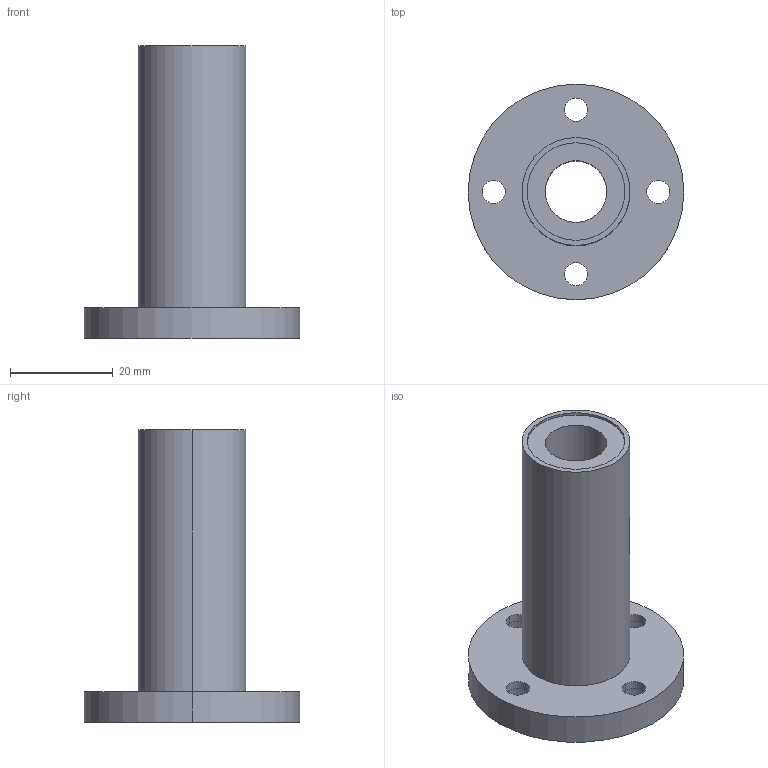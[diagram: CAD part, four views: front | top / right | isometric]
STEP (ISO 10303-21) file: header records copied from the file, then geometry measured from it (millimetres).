
FILE_DESCRIPTION((''),'2;1');
FILE_NAME('C:\Documents and Settings\ｿﾀﾀ蠑ｷ1\ｹﾙﾅﾁ ﾈｭｸ饅\ｺﾎﾇｰﾆﾄﾀﾏ\ﾁｦﾇｰ\LMF__LUU\LMF12LUU.stp','2005-06-15T09:41:43',('ｿﾀﾀ蠑ｷ1'),(''),'Autodesk Inventor 9','Autodesk Inventor 9','');
FILE_SCHEMA(('AUTOMOTIVE_DESIGN { 1 0 10303 214 1 1 1 1 }'));
Length unit declared in the file: millimetre
Products named in the file (1): LMF__
Bounding box: 42 x 42 x 57 mm (x, y, z)
Volume: 18337.7 mm3; surface area: 9281.5 mm2
Topology: 1 solids, 1 shells, 38 faces, 84 edges, 56 vertices
Faces by surface type: cylinder 28, plane 10
Entity records: 1127 total; most frequent: DIRECTION 218, CARTESIAN_POINT 179, ORIENTED_EDGE 168, AXIS2_PLACEMENT_3D 95, EDGE_CURVE 84, VERTEX_POINT 56, CIRCLE 56, EDGE_LOOP 56
